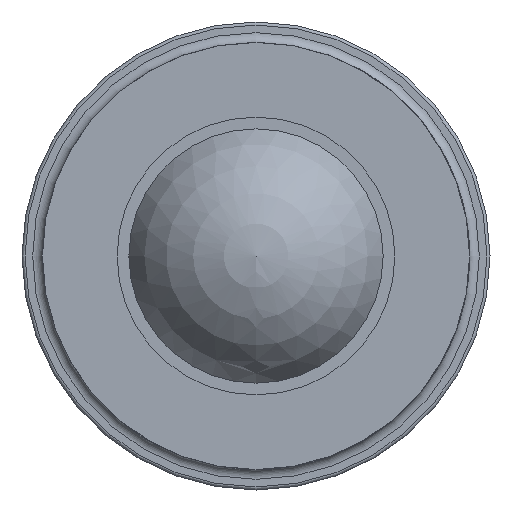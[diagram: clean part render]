
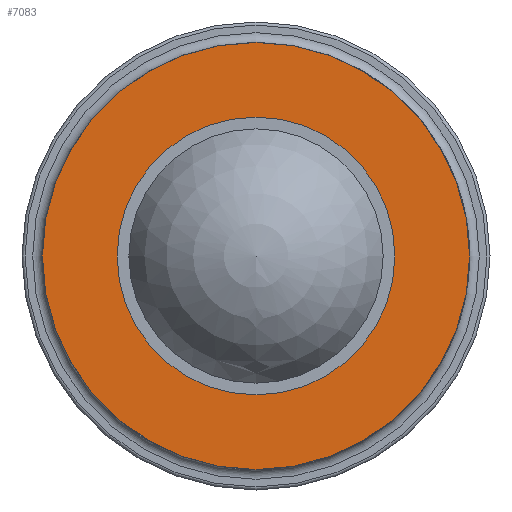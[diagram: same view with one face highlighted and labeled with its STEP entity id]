
A CAD part, left-side view. The second image highlights one B-rep face of the part: STEP entity #7083.
In plain terms, the highlighted planar face has unit normal (-1, 0, 0).
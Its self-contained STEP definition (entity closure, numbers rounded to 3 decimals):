
#858=CIRCLE('',#7451,17.386);
#859=CIRCLE('',#7453,11.303);
#1185=ORIENTED_EDGE('',*,*,#2666,.F.);
#1186=ORIENTED_EDGE('',*,*,#2665,.F.);
#2665=EDGE_CURVE('',#3411,#3411,#858,.T.);
#2666=EDGE_CURVE('',#3412,#3412,#859,.T.);
#3411=VERTEX_POINT('',#9778);
#3412=VERTEX_POINT('',#9781);
#3875=EDGE_LOOP('',(#1185));
#3876=EDGE_LOOP('',(#1186));
#4296=FACE_BOUND('',#3875,.T.);
#4297=FACE_BOUND('',#3876,.T.);
#4654=PLANE('',#7452);
#7083=ADVANCED_FACE('',(#4296,#4297),#4654,.T.);
#7451=AXIS2_PLACEMENT_3D('',#9777,#7863,#7864);
#7452=AXIS2_PLACEMENT_3D('',#9779,#7865,#7866);
#7453=AXIS2_PLACEMENT_3D('',#9780,#7867,#7868);
#7863=DIRECTION('',(1.,0.,0.));
#7864=DIRECTION('',(0.,0.,1.));
#7865=DIRECTION('',(-1.,0.,0.));
#7866=DIRECTION('',(0.,0.,-1.));
#7867=DIRECTION('',(-1.,0.,0.));
#7868=DIRECTION('',(0.,-1.,0.));
#9777=CARTESIAN_POINT('',(-98.641,0.,0.));
#9778=CARTESIAN_POINT('',(-98.641,0.,17.386));
#9779=CARTESIAN_POINT('',(-98.641,0.,17.386));
#9780=CARTESIAN_POINT('',(-98.641,0.,0.));
#9781=CARTESIAN_POINT('',(-98.641,-11.303,0.));
